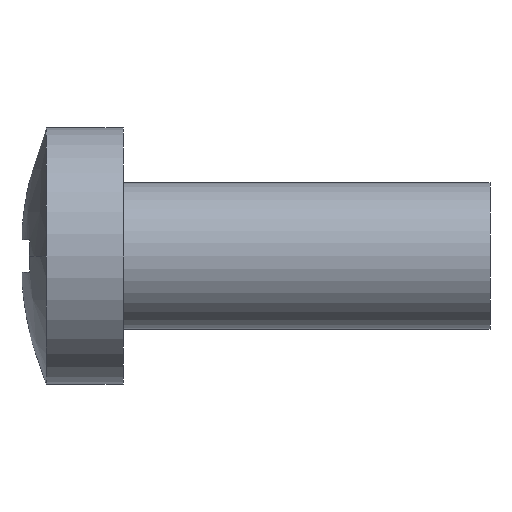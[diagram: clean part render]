
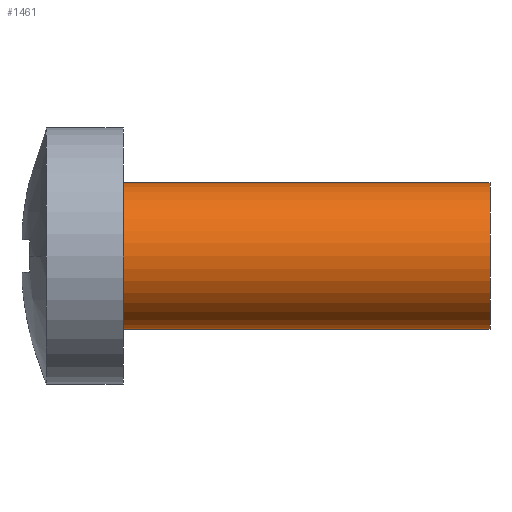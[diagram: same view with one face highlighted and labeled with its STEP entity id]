
A CAD part, front view. The second image highlights one B-rep face of the part: STEP entity #1461.
In plain terms, the highlighted cylindrical face has radius 1 mm (diameter 2 mm), a partial arc.
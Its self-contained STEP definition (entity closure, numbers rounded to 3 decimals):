
#124 = PLANE('',#125);
#125 = AXIS2_PLACEMENT_3D('',#126,#127,#128);
#126 = CARTESIAN_POINT('',(1.4,1.3,0.));
#127 = DIRECTION('',(1.,0.,-0.));
#128 = DIRECTION('',(-0.,0.,-1.));
#212 = VERTEX_POINT('',#213);
#213 = CARTESIAN_POINT('',(1.4,0.,-1.));
#214 = VERTEX_POINT('',#215);
#215 = CARTESIAN_POINT('',(1.4,0.,1.));
#223 = CYLINDRICAL_SURFACE('',#224,1.);
#224 = AXIS2_PLACEMENT_3D('',#225,#226,#227);
#225 = CARTESIAN_POINT('',(4.516,0.,0.));
#226 = DIRECTION('',(1.,-0.,-0.));
#227 = DIRECTION('',(0.,0.,-1.));
#242 = EDGE_CURVE('',#214,#243,#245,.T.);
#243 = VERTEX_POINT('',#244);
#244 = CARTESIAN_POINT('',(6.4,0.,1.));
#245 = SURFACE_CURVE('',#246,(#250,#257),.PCURVE_S1.);
#246 = LINE('',#247,#248);
#247 = CARTESIAN_POINT('',(4.516,0.,1.));
#248 = VECTOR('',#249,1.);
#249 = DIRECTION('',(1.,-0.,-0.));
#250 = PCURVE('',#223,#251);
#251 = DEFINITIONAL_REPRESENTATION('',(#252),#256);
#252 = LINE('',#253,#254);
#253 = CARTESIAN_POINT('',(3.142,0.));
#254 = VECTOR('',#255,1.);
#255 = DIRECTION('',(0.,1.));
#256 = ( GEOMETRIC_REPRESENTATION_CONTEXT(2) 
PARAMETRIC_REPRESENTATION_CONTEXT() REPRESENTATION_CONTEXT('2D SPACE',''
  ) );
#257 = PCURVE('',#258,#263);
#258 = CYLINDRICAL_SURFACE('',#259,1.);
#259 = AXIS2_PLACEMENT_3D('',#260,#261,#262);
#260 = CARTESIAN_POINT('',(4.516,0.,0.));
#261 = DIRECTION('',(1.,-0.,-0.));
#262 = DIRECTION('',(0.,0.,-1.));
#263 = DEFINITIONAL_REPRESENTATION('',(#264),#268);
#264 = LINE('',#265,#266);
#265 = CARTESIAN_POINT('',(3.142,0.));
#266 = VECTOR('',#267,1.);
#267 = DIRECTION('',(0.,1.));
#268 = ( GEOMETRIC_REPRESENTATION_CONTEXT(2) 
PARAMETRIC_REPRESENTATION_CONTEXT() REPRESENTATION_CONTEXT('2D SPACE',''
  ) );
#271 = VERTEX_POINT('',#272);
#272 = CARTESIAN_POINT('',(6.4,0.,-1.));
#287 = PLANE('',#288);
#288 = AXIS2_PLACEMENT_3D('',#289,#290,#291);
#289 = CARTESIAN_POINT('',(6.4,1.,0.));
#290 = DIRECTION('',(1.,0.,-0.));
#291 = DIRECTION('',(-0.,0.,-1.));
#299 = EDGE_CURVE('',#212,#271,#300,.T.);
#300 = SURFACE_CURVE('',#301,(#305,#312),.PCURVE_S1.);
#301 = LINE('',#302,#303);
#302 = CARTESIAN_POINT('',(4.516,0.,-1.));
#303 = VECTOR('',#304,1.);
#304 = DIRECTION('',(1.,-0.,-0.));
#305 = PCURVE('',#223,#306);
#306 = DEFINITIONAL_REPRESENTATION('',(#307),#311);
#307 = LINE('',#308,#309);
#308 = CARTESIAN_POINT('',(0.,0.));
#309 = VECTOR('',#310,1.);
#310 = DIRECTION('',(0.,1.));
#311 = ( GEOMETRIC_REPRESENTATION_CONTEXT(2) 
PARAMETRIC_REPRESENTATION_CONTEXT() REPRESENTATION_CONTEXT('2D SPACE',''
  ) );
#312 = PCURVE('',#258,#313);
#313 = DEFINITIONAL_REPRESENTATION('',(#314),#318);
#314 = LINE('',#315,#316);
#315 = CARTESIAN_POINT('',(6.283,0.));
#316 = VECTOR('',#317,1.);
#317 = DIRECTION('',(0.,1.));
#318 = ( GEOMETRIC_REPRESENTATION_CONTEXT(2) 
PARAMETRIC_REPRESENTATION_CONTEXT() REPRESENTATION_CONTEXT('2D SPACE',''
  ) );
#1440 = EDGE_CURVE('',#243,#271,#1441,.T.);
#1441 = SURFACE_CURVE('',#1442,(#1447,#1454),.PCURVE_S1.);
#1442 = CIRCLE('',#1443,1.);
#1443 = AXIS2_PLACEMENT_3D('',#1444,#1445,#1446);
#1444 = CARTESIAN_POINT('',(6.4,0.,0.));
#1445 = DIRECTION('',(1.,-0.,0.));
#1446 = DIRECTION('',(0.,0.,-1.));
#1447 = PCURVE('',#287,#1448);
#1448 = DEFINITIONAL_REPRESENTATION('',(#1449),#1453);
#1449 = CIRCLE('',#1450,1.);
#1450 = AXIS2_PLACEMENT_2D('',#1451,#1452);
#1451 = CARTESIAN_POINT('',(0.,-1.));
#1452 = DIRECTION('',(1.,0.));
#1453 = ( GEOMETRIC_REPRESENTATION_CONTEXT(2) 
PARAMETRIC_REPRESENTATION_CONTEXT() REPRESENTATION_CONTEXT('2D SPACE',''
  ) );
#1454 = PCURVE('',#258,#1455);
#1455 = DEFINITIONAL_REPRESENTATION('',(#1456),#1460);
#1456 = LINE('',#1457,#1458);
#1457 = CARTESIAN_POINT('',(0.,1.884));
#1458 = VECTOR('',#1459,1.);
#1459 = DIRECTION('',(1.,0.));
#1460 = ( GEOMETRIC_REPRESENTATION_CONTEXT(2) 
PARAMETRIC_REPRESENTATION_CONTEXT() REPRESENTATION_CONTEXT('2D SPACE',''
  ) );
#1461 = ADVANCED_FACE('',(#1462),#258,.T.);
#1462 = FACE_BOUND('',#1463,.T.);
#1463 = EDGE_LOOP('',(#1464,#1465,#1487,#1488));
#1464 = ORIENTED_EDGE('',*,*,#242,.F.);
#1465 = ORIENTED_EDGE('',*,*,#1466,.T.);
#1466 = EDGE_CURVE('',#214,#212,#1467,.T.);
#1467 = SURFACE_CURVE('',#1468,(#1473,#1480),.PCURVE_S1.);
#1468 = CIRCLE('',#1469,1.);
#1469 = AXIS2_PLACEMENT_3D('',#1470,#1471,#1472);
#1470 = CARTESIAN_POINT('',(1.4,0.,0.));
#1471 = DIRECTION('',(1.,-0.,0.));
#1472 = DIRECTION('',(0.,0.,-1.));
#1473 = PCURVE('',#258,#1474);
#1474 = DEFINITIONAL_REPRESENTATION('',(#1475),#1479);
#1475 = LINE('',#1476,#1477);
#1476 = CARTESIAN_POINT('',(0.,-3.116));
#1477 = VECTOR('',#1478,1.);
#1478 = DIRECTION('',(1.,0.));
#1479 = ( GEOMETRIC_REPRESENTATION_CONTEXT(2) 
PARAMETRIC_REPRESENTATION_CONTEXT() REPRESENTATION_CONTEXT('2D SPACE',''
  ) );
#1480 = PCURVE('',#124,#1481);
#1481 = DEFINITIONAL_REPRESENTATION('',(#1482),#1486);
#1482 = CIRCLE('',#1483,1.);
#1483 = AXIS2_PLACEMENT_2D('',#1484,#1485);
#1484 = CARTESIAN_POINT('',(0.,-1.3));
#1485 = DIRECTION('',(1.,0.));
#1486 = ( GEOMETRIC_REPRESENTATION_CONTEXT(2) 
PARAMETRIC_REPRESENTATION_CONTEXT() REPRESENTATION_CONTEXT('2D SPACE',''
  ) );
#1487 = ORIENTED_EDGE('',*,*,#299,.T.);
#1488 = ORIENTED_EDGE('',*,*,#1440,.F.);
